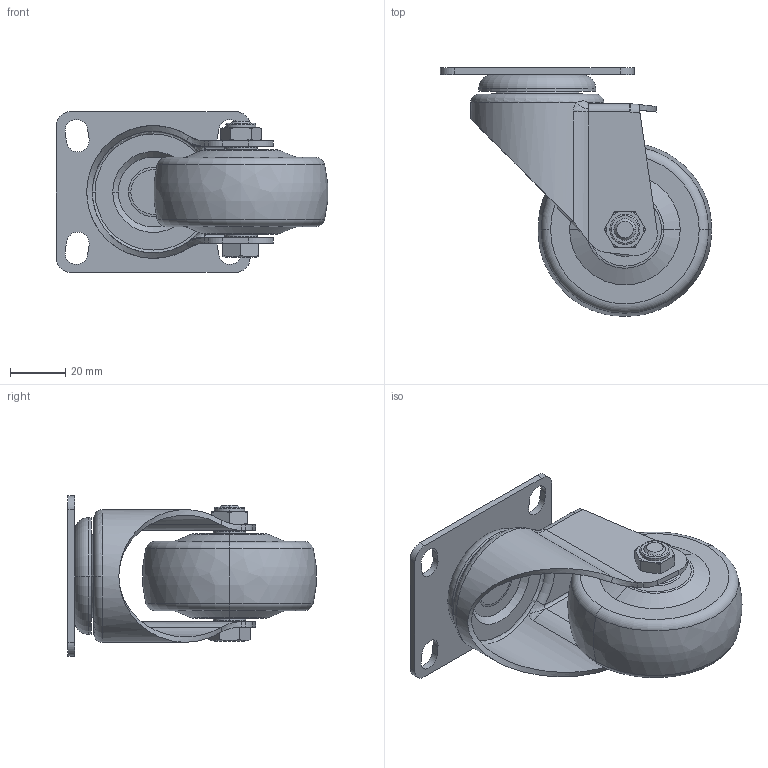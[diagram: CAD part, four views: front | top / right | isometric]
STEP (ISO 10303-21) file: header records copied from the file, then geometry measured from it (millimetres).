
FILE_DESCRIPTION((''),'2;1');
FILE_NAME('S347125_ASM','2021-07-24T',('lenovo'),(''),'PRO/ENGINEER BY PARAMETRIC TECHNOLOGY CORPORATION, 2010280','PRO/ENGINEER BY PARAMETRIC TECHNOLOGY CORPORATION, 2010280','');
FILE_SCHEMA(('CONFIG_CONTROL_DESIGN'));
Length unit declared in the file: millimetre
Products named in the file (6): S340-01; S3425-11; 3625-964; S340-33; S340-34; S347125_ASM
Assembly tree (5 placements, depth 2):
  S347125_ASM
    S340-01
    S3425-11
    3625-964
    S340-33
    S340-34
Bounding box: 98.06 x 89.86 x 58 mm (x, y, z)
Volume: 110757.1 mm3; surface area: 38360.9 mm2
Topology: 5 solids, 5 shells, 200 faces, 470 edges, 292 vertices
Faces by surface type: plane 66, cylinder 57, torus 36, cone 24, bspline 13, sphere 4
Entity records: 7589 total; most frequent: CARTESIAN_POINT 2840, DIRECTION 1002, ORIENTED_EDGE 940, EDGE_CURVE 470, AXIS2_PLACEMENT_3D 410, VERTEX_POINT 292, EDGE_LOOP 230, CIRCLE 212
